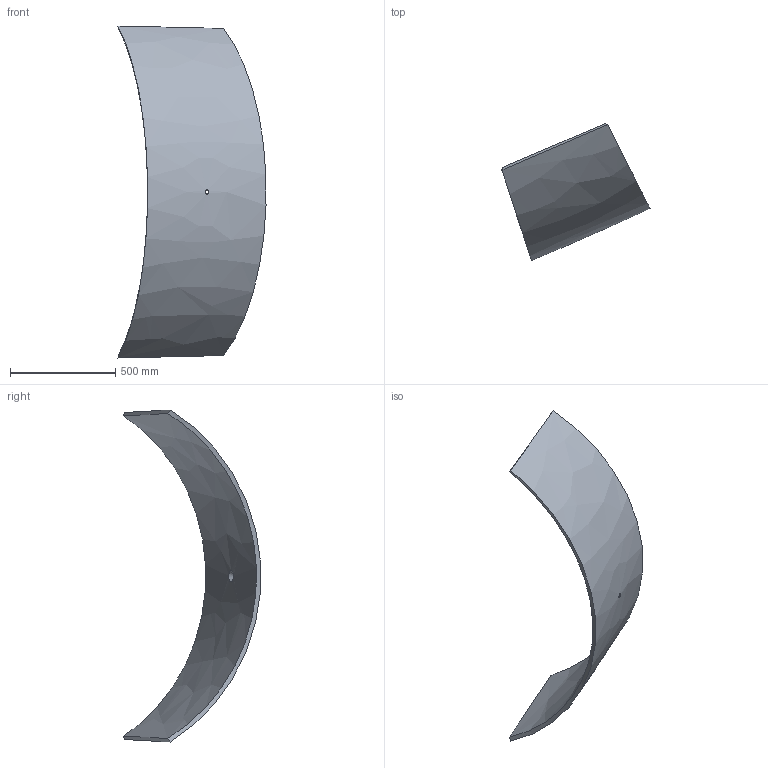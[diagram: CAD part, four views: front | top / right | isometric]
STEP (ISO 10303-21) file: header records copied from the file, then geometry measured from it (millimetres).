
FILE_DESCRIPTION (( 'STEP AP214' ), '1' );
FILE_NAME ('P11.1.STEP', '2025-01-09T19:43:25', ( '' ), ( '' ), 'SwSTEP 2.0', 'SolidWorks 2024', '' );
FILE_SCHEMA (( 'AUTOMOTIVE_DESIGN' ));
Length unit declared in the file: inch
Products named in the file (1): P11.1
Bounding box: 701.67 x 648.53 x 1573.85 mm (x, y, z)
Volume: 20677872.3 mm3; surface area: 2271031.3 mm2
Topology: 1 solids, 1 shells, 8 faces, 17 edges, 11 vertices
Faces by surface type: bspline 7, cylinder 1
Full cylindrical faces by diameter (mm): 19.447 x1
Entity records: 2308 total; most frequent: CARTESIAN_POINT 2160, ORIENTED_EDGE 30, B_SPLINE_CURVE_WITH_KNOTS 15, EDGE_CURVE 15, EDGE_LOOP 12, VERTEX_POINT 11, FACE_OUTER_BOUND 10, ADVANCED_FACE 8
